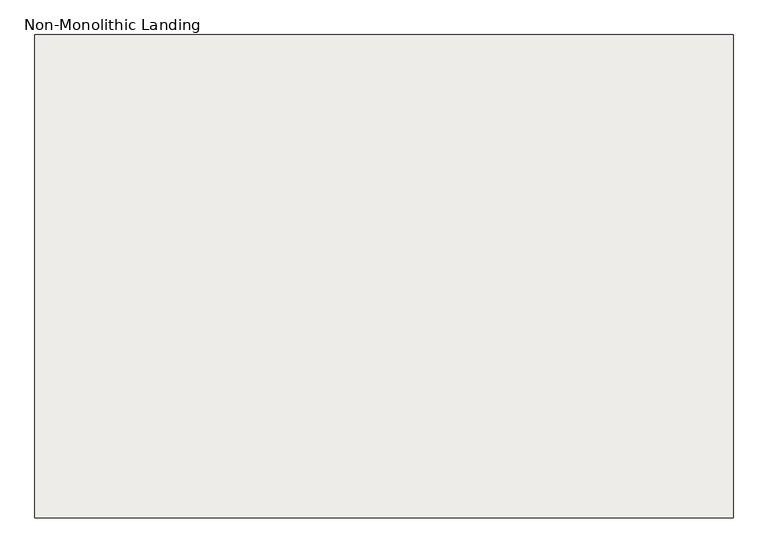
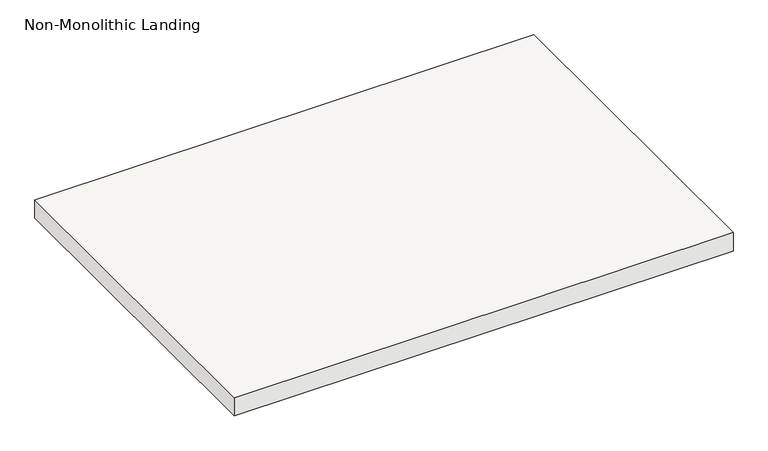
"""IFC4 building model written with IfcOpenShell, lengths in millimetres: slab geometry, Non-Monolithic Landing."""

from ifc_helpers import new_model, si_unit, frame, origin, place, context, project, spatial, polyline, outline, extrude, source, transform, mapped, element, save


def non_monolithic_landing_cbc1462f(model_context):
    return source(origin(), model_context, "Body", "SweptSolid", [
        extrude(outline(polyline([(32923.1991768, 36930.1361774), (34243.9991768, 36930.1361774), (34243.9991768, 36015.7361774), (32923.1991768, 36015.7361774), (32923.1991768, 36930.1361774)])), frame((0.0, 0.0, 2126.3428571), z_axis=(0.0, 0.0, 1.0), x_axis=(1.0, 0.0, 0.0)), (0.0, 0.0, 1.0), 50.8),
    ])


if __name__ == "__main__":
    model = new_model("IFC4")
    model_context = context("Model", 3, world=origin())
    ifc_project = project(units=[si_unit("LENGTHUNIT", "METRE", prefix="MILLI")], contexts=[model_context])
    site = spatial("IfcSite", under=ifc_project)
    building = spatial("IfcBuilding", under=site)
    placement = place(None, origin())
    non_monolithic_landing_shape = non_monolithic_landing_cbc1462f(model_context)
    element("IfcSlab", 1, ObjectType="Non-Monolithic Landing", at=placement, inside=building, context=model_context, shape_type="MappedRepresentation", body=[
        mapped(non_monolithic_landing_shape, transform((0.0, 0.0, 0.0), x_axis=(1.0, 0.0, 0.0), y_axis=(0.0, 1.0, 0.0), z_axis=(0.0, 0.0, 1.0))),
    ])
    save(model, "model.ifc")
